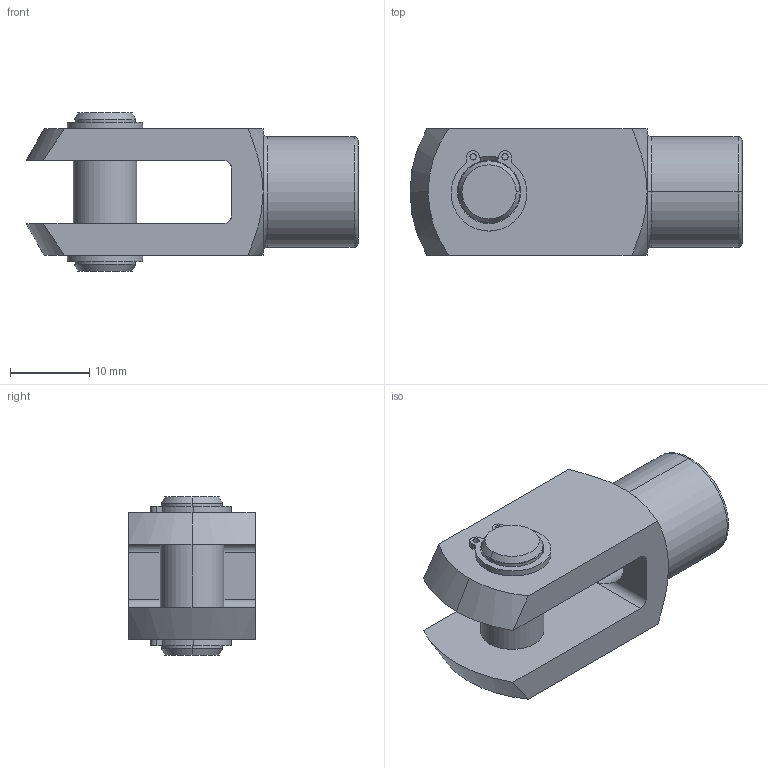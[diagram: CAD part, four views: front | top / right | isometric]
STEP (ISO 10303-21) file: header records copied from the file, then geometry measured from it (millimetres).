
FILE_DESCRIPTION (( 'STEP AP203' ), '1' );
FILE_NAME ('65616.W0082.step', '2014-01-18T10:31:03', ( 'User' ), ( '' ), 'SwSTEP 2.0', 'SolidWorks 2009', '' );
FILE_SCHEMA (( 'CONFIG_CONTROL_DESIGN' ));
Length unit declared in the file: millimetre
Products named in the file (4): Part1_65636.W0082; Part2_65666.W0008; 65616.W0082; Part3_65678.W0008
Assembly tree (4 placements, depth 2):
  65616.W0082
    Part1_65636.W0082
    Part2_65666.W0008
    Part3_65678.W0008  x2
Bounding box: 42 x 16 x 20 mm (x, y, z)
Volume: 5731.6 mm3; surface area: 4219.2 mm2
Topology: 4 solids, 4 shells, 91 faces, 219 edges, 140 vertices
Faces by surface type: cylinder 42, plane 28, cone 17, torus 4
Entity records: 2647 total; most frequent: CARTESIAN_POINT 463, DIRECTION 403, ORIENTED_EDGE 342, EDGE_CURVE 171, AXIS2_PLACEMENT_3D 168, VERTEX_POINT 108, CIRCLE 88, EDGE_LOOP 87
